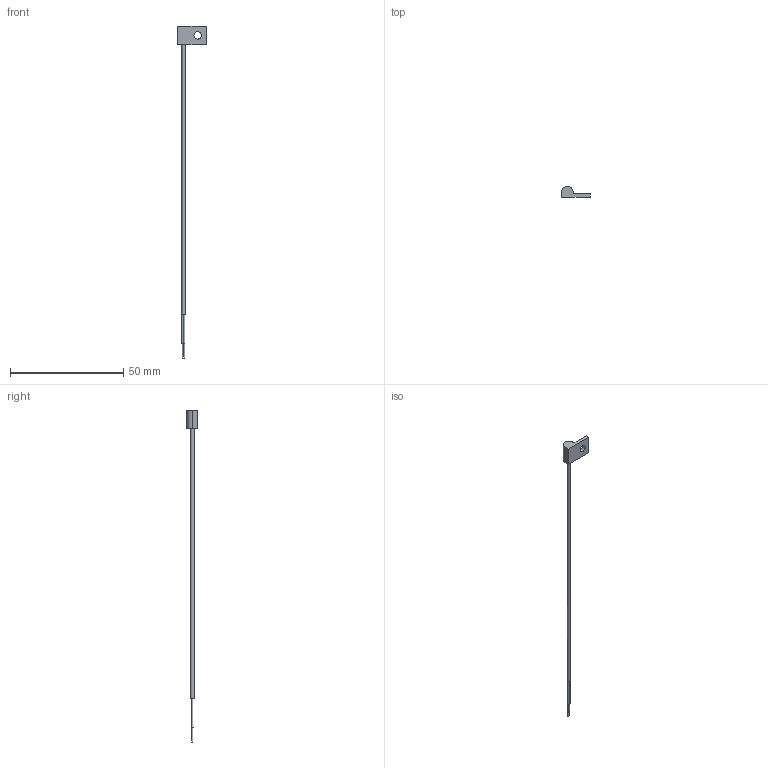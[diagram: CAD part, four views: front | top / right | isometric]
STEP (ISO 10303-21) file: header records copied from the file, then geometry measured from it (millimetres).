
FILE_DESCRIPTION(/* description */ (''),/* implementation_level */ '2;1');
FILE_NAME(/* name */ 'C:\Users\Justin\Documents\CAD\The Sensor Connection\Temperature Sensors\Thermocouples\SMBD\SMBD TC Assembly.stp',/* time_stamp */ '2021-11-19T12:33:19-05:00',/* author */ ('Justin'),/* organization */ (''),/* preprocessor_version */ 'ST-DEVELOPER v18.1',/* originating_system */ 'Autodesk Inventor 2022',/* authorisation */ '');
FILE_SCHEMA (('AUTOMOTIVE_DESIGN { 1 0 10303 214 3 1 1 }'));
Length unit declared in the file: inch
Products named in the file (4): SMBD TC Assembly; SMBD; SMBD Cable; Potting Compound
Assembly tree (3 placements, depth 2):
  SMBD TC Assembly
    SMBD
    SMBD Cable
    Potting Compound
Bounding box: 12.7 x 4.81 x 146.81 mm (x, y, z)
Volume: 420.4 mm3; surface area: 2259.2 mm2
Topology: 7 solids, 7 shells, 31 faces, 52 edges, 37 vertices
Faces by surface type: plane 20, cylinder 11
Full cylindrical faces by diameter (mm): 0.432 x2, 0.635 x2, 1.27 x1, 1.524 x2, 3.277 x1, 3.556 x2
Entity records: 1028 total; most frequent: DIRECTION 156, CARTESIAN_POINT 124, ORIENTED_EDGE 96, AXIS2_PLACEMENT_3D 65, EDGE_CURVE 48, EDGE_LOOP 38, VERTEX_POINT 32, FACE_OUTER_BOUND 31
